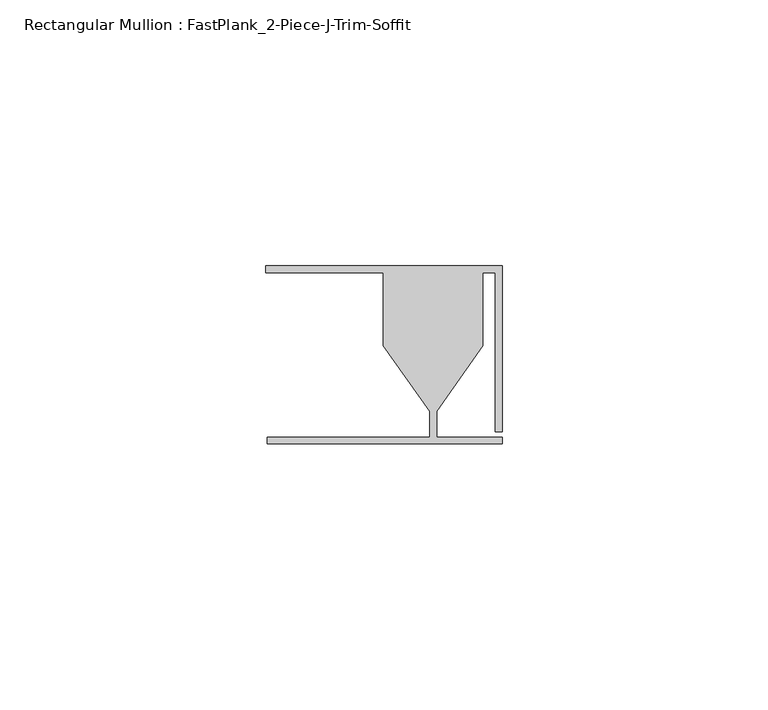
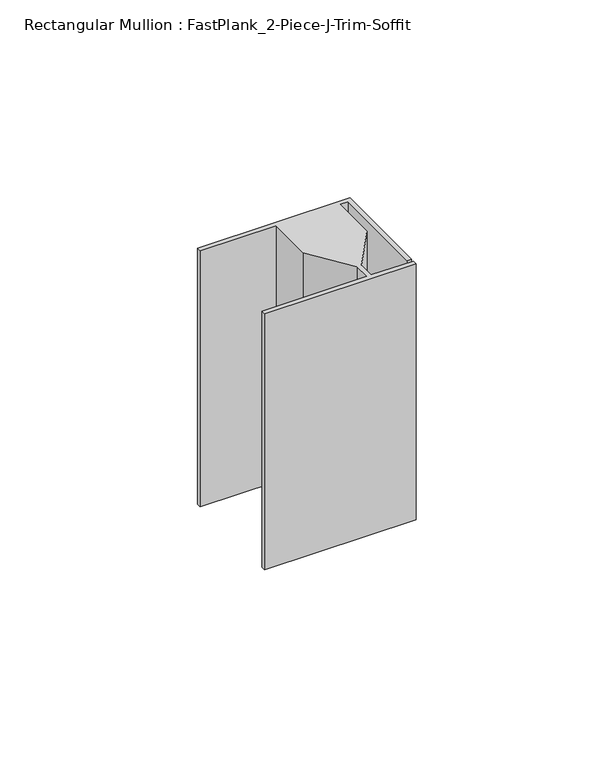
"""IFC4 building model written with IfcOpenShell, lengths in millimetres: member geometry, Rectangular Mullion : FastPlank_2-Piece-J-Trim-Soffit."""

from ifc_helpers import new_model, si_unit, frame, origin, place, context, project, spatial, polyline, outline, extrude, source, transform, mapped, element, save


def rectangular_mullion_fastplank_2_piece_j_trim_soffit_a2a4a74a(model_context):
    return source(origin(), model_context, "Body", "SweptSolid", [
        extrude(outline(polyline([(0.0, -24.0545052), (-44.2023711, -24.0545052), (-44.2023711, -22.7538154), (-13.6176438, -22.7538154), (-13.6176438, -17.8958113), (-22.3299553, -5.5376243), (-22.3299553, 8.1461228), (-44.4475015, 8.1461228), (-44.4475015, 9.4461202), (0.0, 9.4461202), (0.0, -21.7539969), (-1.2999974, -21.7539969), (-1.2999974, 8.1461228), (-3.6053348, 8.1461228), (-3.6053348, -5.5376243), (-12.3176464, -17.8958113), (-12.3176464, -22.7538154), (0.0, -22.7538154), (0.0, -24.0545052)])), frame((0.0, 0.0, -79.0888085), z_axis=(0.0, 0.0, 1.0), x_axis=(1.0, 0.0, 0.0)), (0.0, 0.0, 1.0), 79.0888085),
    ])


if __name__ == "__main__":
    model = new_model("IFC4")
    model_context = context("Model", 3, world=origin())
    ifc_project = project(units=[si_unit("LENGTHUNIT", "METRE", prefix="MILLI")], contexts=[model_context])
    site = spatial("IfcSite", under=ifc_project)
    building = spatial("IfcBuilding", under=site)
    placement = place(None, origin())
    rectangular_mullion_fastplank_2_piece_j_trim_soffit_shape = rectangular_mullion_fastplank_2_piece_j_trim_soffit_a2a4a74a(model_context)
    element("IfcMember", 1, ObjectType="Rectangular Mullion : FastPlank_2-Piece-J-Trim-Soffit", at=placement, inside=building, context=model_context, shape_type="MappedRepresentation", body=[
        mapped(rectangular_mullion_fastplank_2_piece_j_trim_soffit_shape, transform((0.0, 0.0, 0.0), x_axis=(1.0, 0.0, 0.0), y_axis=(0.0, 1.0, 0.0), z_axis=(0.0, 0.0, 1.0))),
    ])
    save(model, "model.ifc")
